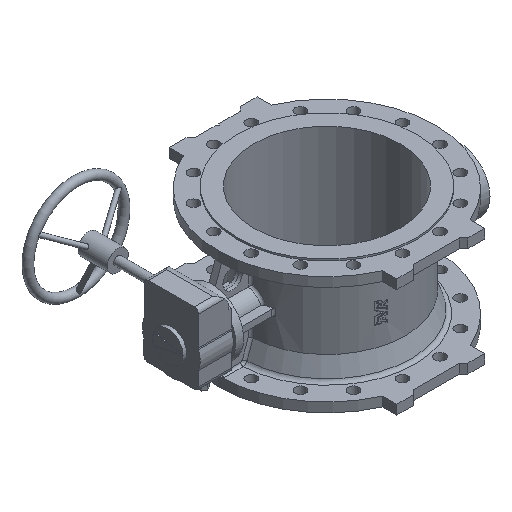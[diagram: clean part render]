
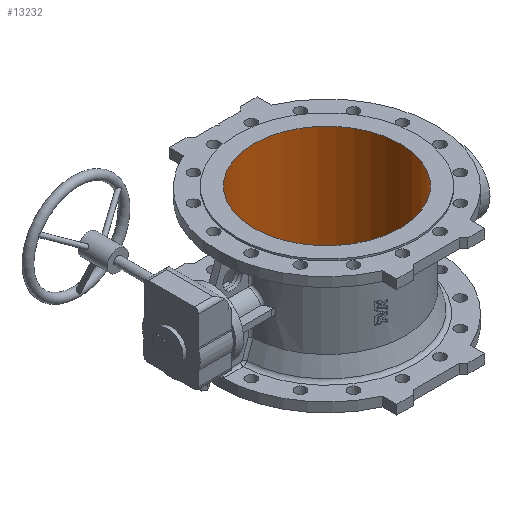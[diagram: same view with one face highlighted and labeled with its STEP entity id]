
A CAD part, isometric view. The second image highlights one B-rep face of the part: STEP entity #13232.
In plain terms, the highlighted cylindrical face has radius 175 mm (diameter 350 mm), a full revolution.
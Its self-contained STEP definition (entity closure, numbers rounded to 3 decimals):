
#2698 = DIRECTION ( 'NONE',  ( -1., 0., 0. ) ) ;
#2699 = CARTESIAN_POINT ( 'NONE',  ( 0., -3., 133.661 ) ) ;
#2700 = DIRECTION ( 'NONE',  ( 0., 0., 1. ) ) ;
#4216 = DIRECTION ( 'NONE',  ( -1., 0., 0. ) ) ;
#4217 = DIRECTION ( 'NONE',  ( 0., 0., 1. ) ) ;
#4218 = CARTESIAN_POINT ( 'NONE',  ( 0., -3., -145. ) ) ;
#5439 = EDGE_LOOP ( 'NONE', ( #14616 ) ) ;
#5440 = EDGE_LOOP ( 'NONE', ( #14617 ) ) ;
#6065 = FACE_OUTER_BOUND ( 'NONE', #5439, .T. ) ;
#6070 = FACE_OUTER_BOUND ( 'NONE', #5440, .T. ) ;
#6072 = CYLINDRICAL_SURFACE ( 'NONE', #6285, 175. ) ;
#6285 = AXIS2_PLACEMENT_3D ( 'NONE', #2699, #2700, #2698 ) ;
#6726 = VERTEX_POINT ( 'NONE', #11418 ) ;
#6757 = VERTEX_POINT ( 'NONE', #11449 ) ;
#8123 = AXIS2_PLACEMENT_3D ( 'NONE', #15556, #15554, #15552 ) ;
#8198 = AXIS2_PLACEMENT_3D ( 'NONE', #4218, #4217, #4216 ) ;
#8299 = EDGE_CURVE ( 'NONE', #6726, #6726, #12328, .T. ) ;
#8552 = EDGE_CURVE ( 'NONE', #6757, #6757, #12751, .T. ) ;
#11418 = CARTESIAN_POINT ( 'NONE',  ( -175., -3., -145. ) ) ;
#11449 = CARTESIAN_POINT ( 'NONE',  ( -175., -3., 145. ) ) ;
#12328 = CIRCLE ( 'NONE', #8198, 175. ) ;
#12751 = CIRCLE ( 'NONE', #8123, 175. ) ;
#13232 = ADVANCED_FACE ( 'NONE', ( #6065, #6070 ), #6072, .F. ) ;
#14616 = ORIENTED_EDGE ( 'NONE', *, *, #8299, .F. ) ;
#14617 = ORIENTED_EDGE ( 'NONE', *, *, #8552, .T. ) ;
#15552 = DIRECTION ( 'NONE',  ( -1., 0., 0. ) ) ;
#15554 = DIRECTION ( 'NONE',  ( 0., 0., 1. ) ) ;
#15556 = CARTESIAN_POINT ( 'NONE',  ( 0., -3., 145. ) ) ;
